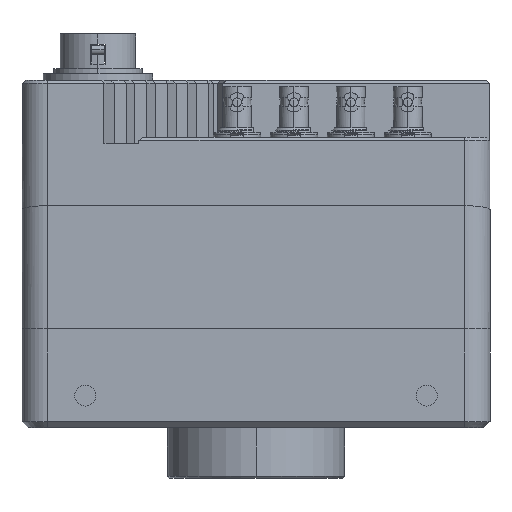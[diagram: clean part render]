
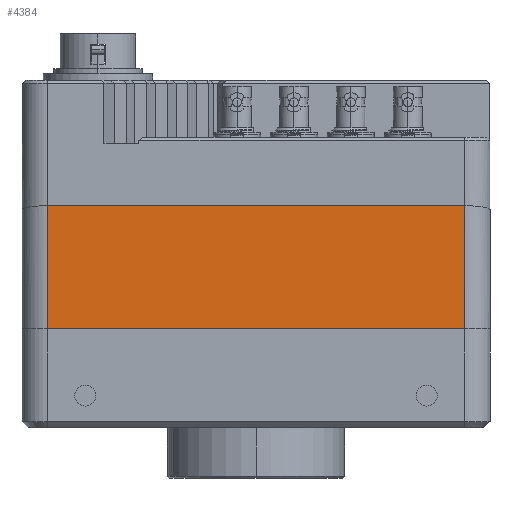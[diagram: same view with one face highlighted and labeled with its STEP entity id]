
A CAD part, left-side view. The second image highlights one B-rep face of the part: STEP entity #4384.
In plain terms, the highlighted planar face has unit normal (-1, 0, 0).
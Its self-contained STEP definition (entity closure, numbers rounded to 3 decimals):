
#1239 = CARTESIAN_POINT ( 'NONE',  ( -38.778, -36.309, 83.83 ) ) ;
#2515 = CARTESIAN_POINT ( 'NONE',  ( -38.778, 29.691, 83.83 ) ) ;
#4384 = ADVANCED_FACE ( 'NONE', ( #122802 ), #122427, .F. ) ;
#5396 = EDGE_CURVE ( 'NONE', #7534, #23435, #17448, .T. ) ;
#7534 = VERTEX_POINT ( 'NONE', #105437 ) ;
#8478 = VECTOR ( 'NONE', #41217, 1000. ) ;
#12901 = DIRECTION ( 'NONE',  ( 0., 1., 0. ) ) ;
#17448 = LINE ( 'NONE', #43624, #111625 ) ;
#19444 = VECTOR ( 'NONE', #130314, 1000. ) ;
#23435 = VERTEX_POINT ( 'NONE', #64778 ) ;
#24614 = EDGE_CURVE ( 'NONE', #83885, #7534, #29186, .T. ) ;
#29186 = LINE ( 'NONE', #1239, #82535 ) ;
#39750 = EDGE_LOOP ( 'NONE', ( #97828, #90269, #80512, #76941 ) ) ;
#41217 = DIRECTION ( 'NONE',  ( 0., 0., -1. ) ) ;
#42552 = CARTESIAN_POINT ( 'NONE',  ( -38.778, 29.691, 80.83 ) ) ;
#43624 = CARTESIAN_POINT ( 'NONE',  ( -38.778, 152.925, 100.29 ) ) ;
#46819 = EDGE_CURVE ( 'NONE', #83885, #76085, #50752, .T. ) ;
#50752 = LINE ( 'NONE', #70588, #19444 ) ;
#51765 = DIRECTION ( 'NONE',  ( 0., 0., -1. ) ) ;
#58606 = EDGE_CURVE ( 'NONE', #23435, #76085, #76013, .T. ) ;
#61410 = CARTESIAN_POINT ( 'NONE',  ( -38.778, -35.309, 83.83 ) ) ;
#64778 = CARTESIAN_POINT ( 'NONE',  ( -38.778, 29.691, 100.29 ) ) ;
#70588 = CARTESIAN_POINT ( 'NONE',  ( -38.778, -36.309, 80.83 ) ) ;
#72396 = DIRECTION ( 'NONE',  ( 1., 0., 0. ) ) ;
#76013 = LINE ( 'NONE', #2515, #8478 ) ;
#76085 = VERTEX_POINT ( 'NONE', #42552 ) ;
#76941 = ORIENTED_EDGE ( 'NONE', *, *, #58606, .T. ) ;
#80512 = ORIENTED_EDGE ( 'NONE', *, *, #5396, .T. ) ;
#82452 = DIRECTION ( 'NONE',  ( 0., 0., 1. ) ) ;
#82535 = VECTOR ( 'NONE', #82452, 1000. ) ;
#83605 = CARTESIAN_POINT ( 'NONE',  ( -38.778, -36.309, 80.83 ) ) ;
#83885 = VERTEX_POINT ( 'NONE', #83605 ) ;
#90269 = ORIENTED_EDGE ( 'NONE', *, *, #24614, .T. ) ;
#97828 = ORIENTED_EDGE ( 'NONE', *, *, #46819, .F. ) ;
#105437 = CARTESIAN_POINT ( 'NONE',  ( -38.778, -36.309, 100.29 ) ) ;
#107985 = AXIS2_PLACEMENT_3D ( 'NONE', #61410, #72396, #51765 ) ;
#111625 = VECTOR ( 'NONE', #12901, 1000. ) ;
#122427 = PLANE ( 'NONE',  #107985 ) ;
#122802 = FACE_OUTER_BOUND ( 'NONE', #39750, .T. ) ;
#130314 = DIRECTION ( 'NONE',  ( 0., 1., 0. ) ) ;
